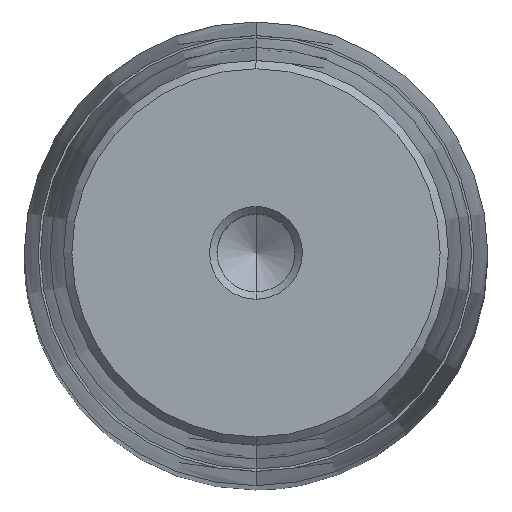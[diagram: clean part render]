
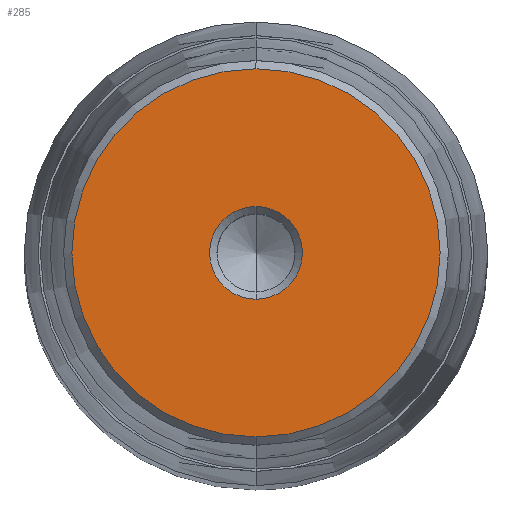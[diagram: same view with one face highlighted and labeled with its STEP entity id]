
A CAD part, top view. The second image highlights one B-rep face of the part: STEP entity #285.
In plain terms, the highlighted planar face has unit normal (0, 0, 1).
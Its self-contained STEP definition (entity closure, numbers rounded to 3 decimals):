
#164=CARTESIAN_POINT('Axis2P3D Location',(0.,0.,69.)) ;
#168=CARTESIAN_POINT('Vertex',(6.,0.,69.)) ;
#170=CARTESIAN_POINT('Vertex',(0.,-6.,69.)) ;
#173=CARTESIAN_POINT('Axis2P3D Location',(0.,0.,69.)) ;
#177=CARTESIAN_POINT('Vertex',(0.,6.,69.)) ;
#228=CARTESIAN_POINT('Axis2P3D Location',(0.,6.,69.)) ;
#233=CARTESIAN_POINT('Axis2P3D Location',(0.,0.,69.)) ;
#237=CARTESIAN_POINT('Vertex',(0.,23.825,69.)) ;
#239=CARTESIAN_POINT('Vertex',(23.825,0.,69.)) ;
#242=CARTESIAN_POINT('Axis2P3D Location',(0.,0.,69.)) ;
#246=CARTESIAN_POINT('Vertex',(-23.825,0.,69.)) ;
#249=CARTESIAN_POINT('Axis2P3D Location',(0.,0.,69.)) ;
#253=CARTESIAN_POINT('Vertex',(0.,-23.825,69.)) ;
#256=CARTESIAN_POINT('Axis2P3D Location',(0.,0.,69.)) ;
#267=CARTESIAN_POINT('Axis2P3D Location',(0.,0.,69.)) ;
#271=CARTESIAN_POINT('Vertex',(-6.,0.,69.)) ;
#274=CARTESIAN_POINT('Axis2P3D Location',(0.,0.,69.)) ;
#165=DIRECTION('Axis2P3D Direction',(-0.,0.,1.)) ;
#174=DIRECTION('Axis2P3D Direction',(-0.,0.,1.)) ;
#229=DIRECTION('Axis2P3D Direction',(0.,0.,-1.)) ;
#230=DIRECTION('Axis2P3D XDirection',(0.,1.,0.)) ;
#234=DIRECTION('Axis2P3D Direction',(0.,0.,-1.)) ;
#243=DIRECTION('Axis2P3D Direction',(0.,0.,-1.)) ;
#250=DIRECTION('Axis2P3D Direction',(0.,0.,-1.)) ;
#257=DIRECTION('Axis2P3D Direction',(0.,0.,-1.)) ;
#268=DIRECTION('Axis2P3D Direction',(0.,0.,-1.)) ;
#275=DIRECTION('Axis2P3D Direction',(0.,0.,-1.)) ;
#166=AXIS2_PLACEMENT_3D('Circle Axis2P3D',#164,#165,$) ;
#175=AXIS2_PLACEMENT_3D('Circle Axis2P3D',#173,#174,$) ;
#231=AXIS2_PLACEMENT_3D('Plane Axis2P3D',#228,#229,#230) ;
#235=AXIS2_PLACEMENT_3D('Circle Axis2P3D',#233,#234,$) ;
#244=AXIS2_PLACEMENT_3D('Circle Axis2P3D',#242,#243,$) ;
#251=AXIS2_PLACEMENT_3D('Circle Axis2P3D',#249,#250,$) ;
#258=AXIS2_PLACEMENT_3D('Circle Axis2P3D',#256,#257,$) ;
#269=AXIS2_PLACEMENT_3D('Circle Axis2P3D',#267,#268,$) ;
#276=AXIS2_PLACEMENT_3D('Circle Axis2P3D',#274,#275,$) ;
#262=ORIENTED_EDGE('',*,*,#241,.F.) ;
#263=ORIENTED_EDGE('',*,*,#248,.F.) ;
#264=ORIENTED_EDGE('',*,*,#255,.F.) ;
#265=ORIENTED_EDGE('',*,*,#260,.F.) ;
#280=ORIENTED_EDGE('',*,*,#172,.T.) ;
#281=ORIENTED_EDGE('',*,*,#273,.T.) ;
#282=ORIENTED_EDGE('',*,*,#278,.T.) ;
#283=ORIENTED_EDGE('',*,*,#179,.T.) ;
#284=FACE_BOUND('',#279,.T.) ;
#285=ADVANCED_FACE('722-60x355x406',(#266,#284),#232,.F.) ;
#167=CIRCLE('generated circle',#166,6.) ;
#176=CIRCLE('generated circle',#175,6.) ;
#236=CIRCLE('generated circle',#235,23.825) ;
#245=CIRCLE('generated circle',#244,23.825) ;
#252=CIRCLE('generated circle',#251,23.825) ;
#259=CIRCLE('generated circle',#258,23.825) ;
#270=CIRCLE('generated circle',#269,6.) ;
#277=CIRCLE('generated circle',#276,6.) ;
#172=EDGE_CURVE('',#169,#171,#167,.F.) ;
#179=EDGE_CURVE('',#178,#169,#176,.F.) ;
#241=EDGE_CURVE('',#238,#240,#236,.T.) ;
#248=EDGE_CURVE('',#247,#238,#245,.T.) ;
#255=EDGE_CURVE('',#254,#247,#252,.T.) ;
#260=EDGE_CURVE('',#240,#254,#259,.T.) ;
#273=EDGE_CURVE('',#171,#272,#270,.T.) ;
#278=EDGE_CURVE('',#272,#178,#277,.T.) ;
#261=EDGE_LOOP('',(#262,#263,#264,#265)) ;
#279=EDGE_LOOP('',(#280,#281,#282,#283)) ;
#266=FACE_OUTER_BOUND('',#261,.T.) ;
#232=PLANE('Plane',#231) ;
#169=VERTEX_POINT('',#168) ;
#171=VERTEX_POINT('',#170) ;
#178=VERTEX_POINT('',#177) ;
#238=VERTEX_POINT('',#237) ;
#240=VERTEX_POINT('',#239) ;
#247=VERTEX_POINT('',#246) ;
#254=VERTEX_POINT('',#253) ;
#272=VERTEX_POINT('',#271) ;
